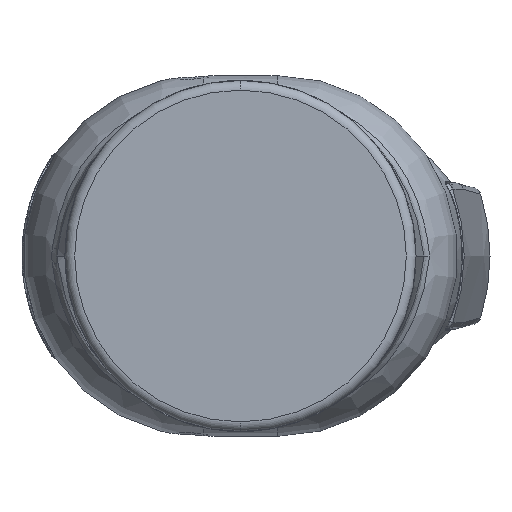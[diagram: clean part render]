
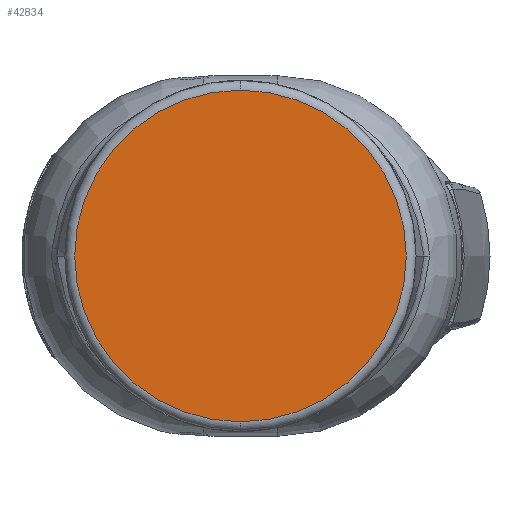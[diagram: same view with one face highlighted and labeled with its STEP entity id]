
A CAD part, left-side view. The second image highlights one B-rep face of the part: STEP entity #42834.
In plain terms, the highlighted planar face has unit normal (-1, 0, 0).
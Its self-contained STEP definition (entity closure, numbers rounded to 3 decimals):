
#984 = DIRECTION ( 'NONE',  ( 0., 0., -1. ) ) ;
#1042 = PLANE ( 'NONE',  #9395 ) ;
#4958 = CARTESIAN_POINT ( 'NONE',  ( -203., -3.75, 0. ) ) ;
#7875 = ORIENTED_EDGE ( 'NONE', *, *, #33635, .T. ) ;
#7958 = EDGE_LOOP ( 'NONE', ( #7875, #27325 ) ) ;
#8827 = AXIS2_PLACEMENT_3D ( 'NONE', #4958, #25418, #984 ) ;
#9395 = AXIS2_PLACEMENT_3D ( 'NONE', #14604, #41766, #24392 ) ;
#10220 = VERTEX_POINT ( 'NONE', #17449 ) ;
#12981 = VERTEX_POINT ( 'NONE', #22511 ) ;
#14604 = CARTESIAN_POINT ( 'NONE',  ( -203., -3.75, 0. ) ) ;
#17449 = CARTESIAN_POINT ( 'NONE',  ( -203., -3.75, 17. ) ) ;
#19500 = AXIS2_PLACEMENT_3D ( 'NONE', #20952, #28055, #38740 ) ;
#20952 = CARTESIAN_POINT ( 'NONE',  ( -203., -3.75, 0. ) ) ;
#22511 = CARTESIAN_POINT ( 'NONE',  ( -203., -3.75, -17. ) ) ;
#24392 = DIRECTION ( 'NONE',  ( 0., 0., -1. ) ) ;
#25418 = DIRECTION ( 'NONE',  ( -1., 0., 0. ) ) ;
#27313 = CIRCLE ( 'NONE', #8827, 17. ) ;
#27325 = ORIENTED_EDGE ( 'NONE', *, *, #33404, .T. ) ;
#28055 = DIRECTION ( 'NONE',  ( -1., 0., 0. ) ) ;
#33404 = EDGE_CURVE ( 'NONE', #10220, #12981, #27313, .T. ) ;
#33635 = EDGE_CURVE ( 'NONE', #12981, #10220, #38704, .T. ) ;
#38704 = CIRCLE ( 'NONE', #19500, 17. ) ;
#38740 = DIRECTION ( 'NONE',  ( 0., 0., -1. ) ) ;
#41319 = FACE_OUTER_BOUND ( 'NONE', #7958, .T. ) ;
#41766 = DIRECTION ( 'NONE',  ( 1., 0., 0. ) ) ;
#42834 = ADVANCED_FACE ( 'NONE', ( #41319 ), #1042, .F. ) ;
